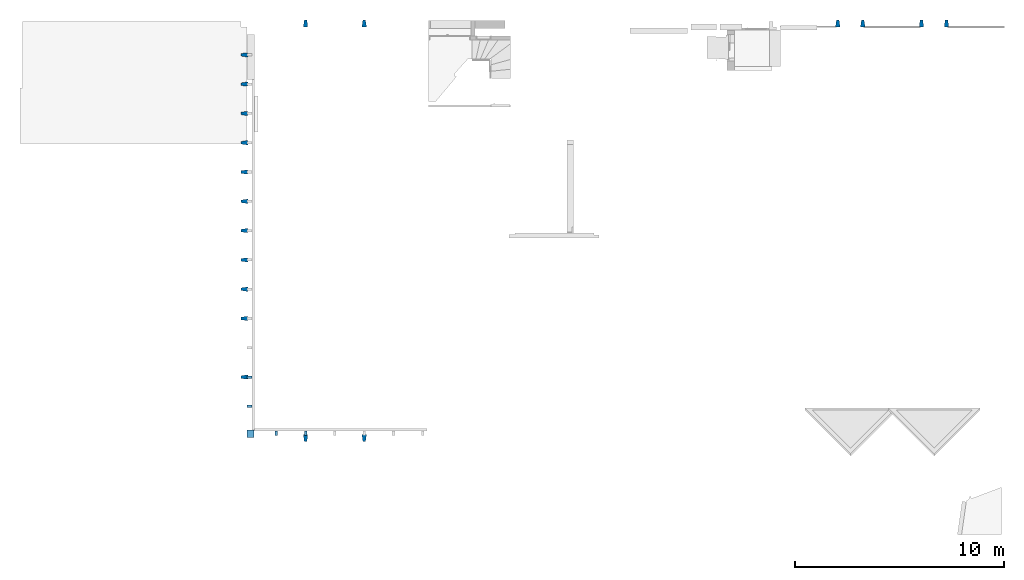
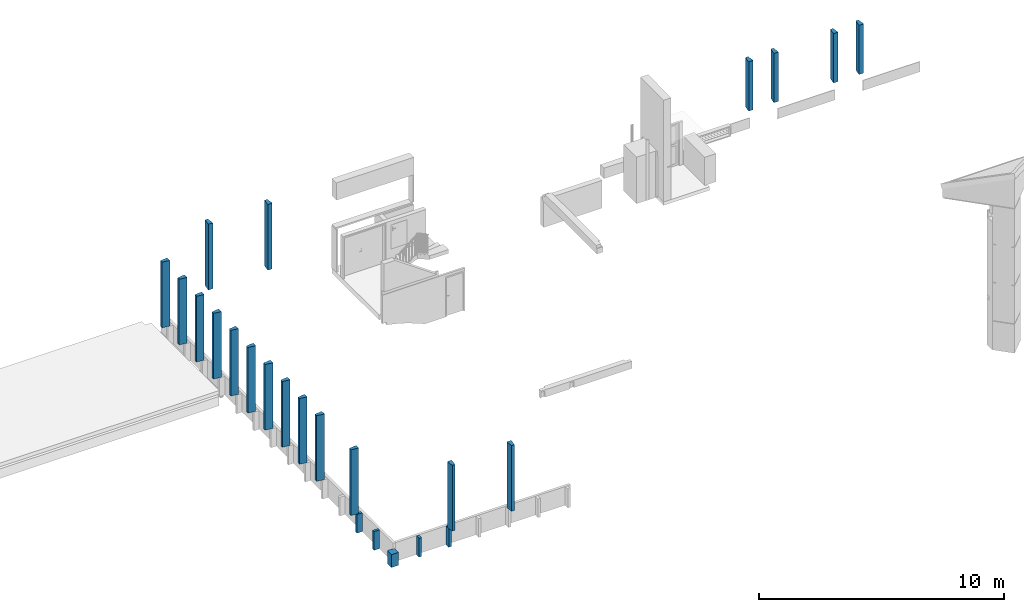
# One storey, part 1 of 13: 24 columns.
"""IFC4 building model written with IfcOpenShell, lengths in metres."""

from ifc_helpers import new_model, entity, si_unit, converted_unit, derived_unit, direction, frame, origin, place, context, subcontext, project, spatial, indexed_curve, outline, extrude, source, transform, mapped, material, material_list, type_object, type_shapes, element, save


model = new_model("IFC4")

# Units and contexts
model_context = context("Model", 3, precision=1e-05, world=origin(), true_north=direction((6.12303176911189e-17, 1.0)))
body_context = subcontext(model_context, "Body", "Model", "MODEL_VIEW")
ifc_project = project(units=[si_unit("LENGTHUNIT", "METRE"), si_unit("AREAUNIT", "SQUARE_METRE"), si_unit("VOLUMEUNIT", "CUBIC_METRE"), converted_unit("PLANEANGLEUNIT", "DEGREE", entity("IfcRatioMeasure", 0.0174532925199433), si_unit("PLANEANGLEUNIT", "RADIAN"), dimensions=[0, 0, 0, 0, 0, 0, 0]), si_unit("MASSUNIT", "GRAM", prefix="KILO"), derived_unit("MASSDENSITYUNIT", [(si_unit("MASSUNIT", "GRAM", prefix="KILO"), 1), (si_unit("LENGTHUNIT", "METRE"), -3)]), derived_unit("MOMENTOFINERTIAUNIT", [(si_unit("LENGTHUNIT", "METRE"), 4)]), si_unit("TIMEUNIT", "SECOND"), si_unit("FREQUENCYUNIT", "HERTZ"), si_unit("THERMODYNAMICTEMPERATUREUNIT", "DEGREE_CELSIUS"), derived_unit("THERMALTRANSMITTANCEUNIT", [(si_unit("MASSUNIT", "GRAM", prefix="KILO"), 1), (si_unit("THERMODYNAMICTEMPERATUREUNIT", "KELVIN"), -1), (si_unit("TIMEUNIT", "SECOND"), -3)]), derived_unit("VOLUMETRICFLOWRATEUNIT", [(si_unit("LENGTHUNIT", "METRE"), 3), (si_unit("TIMEUNIT", "SECOND"), -1)]), si_unit("ELECTRICCURRENTUNIT", "AMPERE"), si_unit("ELECTRICVOLTAGEUNIT", "VOLT"), si_unit("POWERUNIT", "WATT"), si_unit("FORCEUNIT", "NEWTON", prefix="KILO"), si_unit("ILLUMINANCEUNIT", "LUX"), si_unit("LUMINOUSFLUXUNIT", "LUMEN"), si_unit("LUMINOUSINTENSITYUNIT", "CANDELA"), derived_unit("USERDEFINED", [(si_unit("MASSUNIT", "GRAM", prefix="KILO"), -1), (si_unit("LENGTHUNIT", "METRE"), -2), (si_unit("TIMEUNIT", "SECOND"), 3), (si_unit("LUMINOUSFLUXUNIT", "LUMEN"), 1)]), derived_unit("LINEARVELOCITYUNIT", [(si_unit("LENGTHUNIT", "METRE"), 1), (si_unit("TIMEUNIT", "SECOND"), -1)]), si_unit("PRESSUREUNIT", "PASCAL"), derived_unit("USERDEFINED", [(si_unit("LENGTHUNIT", "METRE"), -2), (si_unit("MASSUNIT", "GRAM", prefix="KILO"), 1), (si_unit("TIMEUNIT", "SECOND"), -2)]), derived_unit("LINEARFORCEUNIT", [(si_unit("MASSUNIT", "GRAM", prefix="KILO"), 1), (si_unit("LENGTHUNIT", "METRE"), 1), (si_unit("TIMEUNIT", "SECOND"), -2), (si_unit("LENGTHUNIT", "METRE"), -1)]), derived_unit("PLANARFORCEUNIT", [(si_unit("MASSUNIT", "GRAM", prefix="KILO"), 1), (si_unit("LENGTHUNIT", "METRE"), 1), (si_unit("TIMEUNIT", "SECOND"), -2), (si_unit("LENGTHUNIT", "METRE"), -2)])], contexts=[model_context])

# Site, building, storey
site_placement = place(None, origin())
site = spatial("IfcSite", under=ifc_project, at=site_placement, Name="Default", CompositionType="ELEMENT")
building_placement = place(site_placement, origin())
building = spatial("IfcBuilding", under=site, at=building_placement, Name="HOTEL CONSULAIRE BOULOGNE SUR MER", CompositionType="ELEMENT")
storey_placement = place(building_placement, frame((0.0, 0.0, -1.40419978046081)))
storey = spatial("IfcBuildingStorey", under=building, at=storey_placement, Name="Demi-niveau", CompositionType="ELEMENT", Elevation=-1.40419978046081)

# Columns
ifc_material_1 = material(Name="Finition Peinture - Blanc satiné", Category="Peinture")
ifc_material_2 = material(Name="<Unnamed>")
ifc_material_list_1 = material_list([ifc_material_1, ifc_material_2])
column_type_1 = type_object("IfcColumnType", Name="Poteaux porteurs 1:Poteaux porteurs 1", PredefinedType="COLUMN", material=ifc_material_list_1)
shared_shape_1 = source(origin(), body_context, "Body", "SweptSolid", [
    extrude(outline(indexed_curve([(-0.140333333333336, -0.100000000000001), (-0.0593333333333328, -0.100000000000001), (0.199666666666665, -0.0611499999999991), (0.199666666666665, 0.0611499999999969), (-0.0593333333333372, 0.0999999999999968), (-0.140333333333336, 0.0999999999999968), (-0.140333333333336, -0.100000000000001)], self_intersect=False)), frame((-11.0414199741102, -29.6944004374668, -0.219999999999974), z_axis=(0.0, 0.0, 1.0), x_axis=(0.0, -1.0, 0.0)), (0.0, 0.0, 1.0), 3.2711269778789),
])
type_shapes(column_type_1, [shared_shape_1])
column_1_placement = place(storey_placement, frame((0.0, 0.0, 1.40419978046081)))
element("IfcColumn", 1, at=column_1_placement, inside=storey, type_object=column_type_1, material=ifc_material_1, Name="Poteaux porteurs 1:Poteaux porteurs 1", ObjectType="Poteaux porteurs 1:Poteaux porteurs 1", PredefinedType="COLUMN", context=body_context, shape_type="MappedRepresentation", body=[
    mapped(shared_shape_1, transform((0.0, 0.0, 0.0), scale=1.0)),
])
ifc_material_list_2 = material_list([ifc_material_1, ifc_material_2])
column_type_2 = type_object("IfcColumnType", Name="Poteaux porteurs 3:Poteaux porteurs 1", PredefinedType="COLUMN", material=ifc_material_list_2)
shared_shape_2 = source(origin(), body_context, "Body", "SweptSolid", [
    extrude(outline(indexed_curve([(-0.140333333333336, -0.100000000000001), (-0.0593333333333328, -0.100000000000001), (0.199666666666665, -0.0611499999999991), (0.199666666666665, 0.0611499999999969), (-0.0593333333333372, 0.0999999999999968), (-0.140333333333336, 0.0999999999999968), (-0.140333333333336, -0.100000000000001)], self_intersect=False)), frame((-11.0414199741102, -29.6944004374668, -0.219999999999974), z_axis=(0.0, 0.0, 1.0), x_axis=(0.0, -1.0, 0.0)), (0.0, 0.0, 1.0), 3.2711269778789),
])
type_shapes(column_type_2, [shared_shape_2])
column_2_placement = place(storey_placement, frame((2.8, 0.0, 1.40419978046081)))
element("IfcColumn", 2, at=column_2_placement, inside=storey, type_object=column_type_2, material=ifc_material_1, Name="Poteaux porteurs 3:Poteaux porteurs 1", ObjectType="Poteaux porteurs 3:Poteaux porteurs 1", PredefinedType="COLUMN", context=body_context, shape_type="MappedRepresentation", body=[
    mapped(shared_shape_2, transform((0.0, 0.0, 0.0), scale=1.0)),
])
ifc_material_list_3 = material_list([ifc_material_1, ifc_material_2])
column_type_3 = type_object("IfcColumnType", Name="Poteaux porteurs 4:Poteaux porteurs 1", PredefinedType="COLUMN", material=ifc_material_list_3)
shared_shape_3 = source(origin(), body_context, "Body", "SweptSolid", [
    extrude(outline(indexed_curve([(-0.140333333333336, -0.100000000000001), (-0.0593333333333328, -0.100000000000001), (0.199666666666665, -0.0611499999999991), (0.199666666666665, 0.0611499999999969), (-0.0593333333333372, 0.0999999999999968), (-0.140333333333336, 0.0999999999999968), (-0.140333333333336, -0.100000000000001)], self_intersect=False)), frame((-11.0414199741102, -29.6944004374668, -0.219999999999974), z_axis=(0.0, 0.0, 1.0), x_axis=(0.0, -1.0, 0.0)), (0.0, 0.0, 1.0), 3.27110477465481),
])
type_shapes(column_type_3, [shared_shape_3])
column_3_placement = place(storey_placement, frame((15.7659645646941, -33.6528698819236, 1.40419978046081), z_axis=(0.0, 0.0, 1.0), x_axis=(0.0, -1.0, 0.0)))
element("IfcColumn", 3, at=column_3_placement, inside=storey, type_object=column_type_3, material=ifc_material_1, Name="Poteaux porteurs 4:Poteaux porteurs 1", ObjectType="Poteaux porteurs 4:Poteaux porteurs 1", PredefinedType="COLUMN", context=body_context, shape_type="MappedRepresentation", body=[
    mapped(shared_shape_3, transform((0.0, 0.0, 0.0), scale=1.0)),
])
ifc_material_list_4 = material_list([ifc_material_2, ifc_material_1])
column_type_4 = type_object("IfcColumnType", Name="Poteaux porteurs 2:Poteaux porteurs 1", PredefinedType="COLUMN", material=ifc_material_list_4)
shared_shape_4 = source(origin(), body_context, "Body", "SweptSolid", [
    extrude(outline(indexed_curve([(-0.140333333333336, -0.100000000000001), (-0.0593333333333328, -0.100000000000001), (0.199666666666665, -0.0611499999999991), (0.199666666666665, 0.0611499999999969), (-0.0593333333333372, 0.0999999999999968), (-0.140333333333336, 0.0999999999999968), (-0.140333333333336, -0.100000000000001)], self_intersect=False)), frame((-11.0414199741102, -29.6944004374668, -0.219999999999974), z_axis=(0.0, 0.0, 1.0), x_axis=(0.0, -1.0, 0.0)), (0.0, 0.0, 1.0), 3.27110477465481),
])
type_shapes(column_type_4, [shared_shape_4])
column_4_placement = place(storey_placement, frame((15.7659645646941, -35.0528698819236, 1.40419978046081), z_axis=(0.0, 0.0, 1.0), x_axis=(0.0, -1.0, 0.0)))
element("IfcColumn", 4, at=column_4_placement, inside=storey, type_object=column_type_4, material=ifc_material_1, Name="Poteaux porteurs 2:Poteaux porteurs 1", ObjectType="Poteaux porteurs 2:Poteaux porteurs 1", PredefinedType="COLUMN", context=body_context, shape_type="MappedRepresentation", body=[
    mapped(shared_shape_4, transform((0.0, 0.0, 0.0), scale=1.0)),
])
ifc_material_list_5 = material_list([ifc_material_2, ifc_material_1])
column_type_5 = type_object("IfcColumnType", Name="Poteaux porteurs 6:Poteaux porteurs 1", PredefinedType="COLUMN", material=ifc_material_list_5)
shared_shape_5 = source(origin(), body_context, "Body", "SweptSolid", [
    extrude(outline(indexed_curve([(-0.140333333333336, -0.100000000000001), (-0.0593333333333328, -0.100000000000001), (0.199666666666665, -0.0611499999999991), (0.199666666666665, 0.0611499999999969), (-0.0593333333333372, 0.0999999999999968), (-0.140333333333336, 0.0999999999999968), (-0.140333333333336, -0.100000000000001)], self_intersect=False)), frame((-11.0414199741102, -29.6944004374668, -0.219999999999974), z_axis=(0.0, 0.0, 1.0), x_axis=(0.0, -1.0, 0.0)), (0.0, 0.0, 1.0), 3.27110477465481),
])
type_shapes(column_type_5, [shared_shape_5])
column_5_placement = place(storey_placement, frame((15.7659645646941, -37.8528698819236, 1.40419978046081), z_axis=(0.0, 0.0, 1.0), x_axis=(0.0, -1.0, 0.0)))
element("IfcColumn", 5, at=column_5_placement, inside=storey, type_object=column_type_5, material=ifc_material_1, Name="Poteaux porteurs 6:Poteaux porteurs 1", ObjectType="Poteaux porteurs 6:Poteaux porteurs 1", PredefinedType="COLUMN", context=body_context, shape_type="MappedRepresentation", body=[
    mapped(shared_shape_5, transform((0.0, 0.0, 0.0), scale=1.0)),
])
ifc_material_list_6 = material_list([ifc_material_1, ifc_material_2])
column_type_6 = type_object("IfcColumnType", Name="Poteaux porteurs 5:Poteaux porteurs 1", PredefinedType="COLUMN", material=ifc_material_list_6)
shared_shape_6 = source(origin(), body_context, "Body", "SweptSolid", [
    extrude(outline(indexed_curve([(-0.140333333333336, -0.100000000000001), (-0.0593333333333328, -0.100000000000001), (0.199666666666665, -0.0611499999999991), (0.199666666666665, 0.0611499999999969), (-0.0593333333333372, 0.0999999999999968), (-0.140333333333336, 0.0999999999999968), (-0.140333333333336, -0.100000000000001)], self_intersect=False)), frame((-11.0414199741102, -29.6944004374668, -0.219999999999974), z_axis=(0.0, 0.0, 1.0), x_axis=(0.0, -1.0, 0.0)), (0.0, 0.0, 1.0), 3.27110477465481),
])
type_shapes(column_type_6, [shared_shape_6])
column_6_placement = place(storey_placement, frame((15.7659645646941, -32.2528698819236, 1.40419978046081), z_axis=(0.0, 0.0, 1.0), x_axis=(0.0, -1.0, 0.0)))
element("IfcColumn", 6, at=column_6_placement, inside=storey, type_object=column_type_6, material=ifc_material_1, Name="Poteaux porteurs 5:Poteaux porteurs 1", ObjectType="Poteaux porteurs 5:Poteaux porteurs 1", PredefinedType="COLUMN", context=body_context, shape_type="MappedRepresentation", body=[
    mapped(shared_shape_6, transform((0.0, 0.0, 0.0), scale=1.0)),
])
ifc_material_list_7 = material_list([ifc_material_1, ifc_material_2])
column_type_7 = type_object("IfcColumnType", Name="Poteaux porteurs 7:Poteaux porteurs 1", PredefinedType="COLUMN", material=ifc_material_list_7)
shared_shape_7 = source(origin(), body_context, "Body", "SweptSolid", [
    extrude(outline(indexed_curve([(-0.140333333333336, -0.100000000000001), (-0.0593333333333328, -0.100000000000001), (0.199666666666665, -0.0611499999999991), (0.199666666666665, 0.0611499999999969), (-0.0593333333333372, 0.0999999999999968), (-0.140333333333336, 0.0999999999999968), (-0.140333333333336, -0.100000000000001)], self_intersect=False)), frame((-11.0414199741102, -29.6944004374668, -0.219999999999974), z_axis=(0.0, 0.0, 1.0), x_axis=(0.0, -1.0, 0.0)), (0.0, 0.0, 1.0), 3.27110477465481),
])
type_shapes(column_type_7, [shared_shape_7])
column_7_placement = place(storey_placement, frame((15.7659645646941, -30.8528698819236, 1.40419978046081), z_axis=(0.0, 0.0, 1.0), x_axis=(0.0, -1.0, 0.0)))
element("IfcColumn", 7, at=column_7_placement, inside=storey, type_object=column_type_7, material=ifc_material_1, Name="Poteaux porteurs 7:Poteaux porteurs 1", ObjectType="Poteaux porteurs 7:Poteaux porteurs 1", PredefinedType="COLUMN", context=body_context, shape_type="MappedRepresentation", body=[
    mapped(shared_shape_7, transform((0.0, 0.0, 0.0), scale=1.0)),
])
ifc_material_list_8 = material_list([ifc_material_1, ifc_material_2])
column_type_8 = type_object("IfcColumnType", Name="Poteaux porteurs 8:Poteaux porteurs 1", PredefinedType="COLUMN", material=ifc_material_list_8)
shared_shape_8 = source(origin(), body_context, "Body", "SweptSolid", [
    extrude(outline(indexed_curve([(-0.140333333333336, -0.100000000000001), (-0.0593333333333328, -0.100000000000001), (0.199666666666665, -0.0611499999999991), (0.199666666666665, 0.0611499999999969), (-0.0593333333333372, 0.0999999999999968), (-0.140333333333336, 0.0999999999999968), (-0.140333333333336, -0.100000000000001)], self_intersect=False)), frame((-11.0414199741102, -29.6944004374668, -0.219999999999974), z_axis=(0.0, 0.0, 1.0), x_axis=(0.0, -1.0, 0.0)), (0.0, 0.0, 1.0), 3.27110477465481),
])
type_shapes(column_type_8, [shared_shape_8])
column_8_placement = place(storey_placement, frame((15.7659645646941, -29.4528698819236, 1.40419978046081), z_axis=(0.0, 0.0, 1.0), x_axis=(0.0, -1.0, 0.0)))
element("IfcColumn", 8, at=column_8_placement, inside=storey, type_object=column_type_8, material=ifc_material_1, Name="Poteaux porteurs 8:Poteaux porteurs 1", ObjectType="Poteaux porteurs 8:Poteaux porteurs 1", PredefinedType="COLUMN", context=body_context, shape_type="MappedRepresentation", body=[
    mapped(shared_shape_8, transform((0.0, 0.0, 0.0), scale=1.0)),
])
ifc_material_list_9 = material_list([ifc_material_2, ifc_material_1])
column_type_9 = type_object("IfcColumnType", Name="Poteaux porteurs 9:Poteaux porteurs 1", PredefinedType="COLUMN", material=ifc_material_list_9)
shared_shape_9 = source(origin(), body_context, "Body", "SweptSolid", [
    extrude(outline(indexed_curve([(-0.140333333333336, -0.100000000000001), (-0.0593333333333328, -0.100000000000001), (0.199666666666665, -0.0611499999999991), (0.199666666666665, 0.0611499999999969), (-0.0593333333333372, 0.0999999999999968), (-0.140333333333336, 0.0999999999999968), (-0.140333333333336, -0.100000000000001)], self_intersect=False)), frame((-11.0414199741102, -29.6944004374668, -0.219999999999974), z_axis=(0.0, 0.0, 1.0), x_axis=(0.0, -1.0, 0.0)), (0.0, 0.0, 1.0), 3.27110477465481),
])
type_shapes(column_type_9, [shared_shape_9])
column_9_placement = place(storey_placement, frame((15.7659645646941, -28.0528698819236, 1.40419978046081), z_axis=(0.0, 0.0, 1.0), x_axis=(0.0, -1.0, 0.0)))
element("IfcColumn", 9, at=column_9_placement, inside=storey, type_object=column_type_9, material=ifc_material_1, Name="Poteaux porteurs 9:Poteaux porteurs 1", ObjectType="Poteaux porteurs 9:Poteaux porteurs 1", PredefinedType="COLUMN", context=body_context, shape_type="MappedRepresentation", body=[
    mapped(shared_shape_9, transform((0.0, 0.0, 0.0), scale=1.0)),
])
ifc_material_list_10 = material_list([ifc_material_1, ifc_material_2])
column_type_10 = type_object("IfcColumnType", Name="Poteaux porteurs 10:Poteaux porteurs 1", PredefinedType="COLUMN", material=ifc_material_list_10)
shared_shape_10 = source(origin(), body_context, "Body", "SweptSolid", [
    extrude(outline(indexed_curve([(-0.140333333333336, -0.100000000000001), (-0.0593333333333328, -0.100000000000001), (0.199666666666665, -0.0611499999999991), (0.199666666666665, 0.0611499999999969), (-0.0593333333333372, 0.0999999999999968), (-0.140333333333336, 0.0999999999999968), (-0.140333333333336, -0.100000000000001)], self_intersect=False)), frame((-11.0414199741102, -29.6944004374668, -0.219999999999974), z_axis=(0.0, 0.0, 1.0), x_axis=(0.0, -1.0, 0.0)), (0.0, 0.0, 1.0), 3.27110477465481),
])
type_shapes(column_type_10, [shared_shape_10])
column_10_placement = place(storey_placement, frame((15.7659645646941, -26.6528698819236, 1.40419978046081), z_axis=(0.0, 0.0, 1.0), x_axis=(0.0, -1.0, 0.0)))
element("IfcColumn", 10, at=column_10_placement, inside=storey, type_object=column_type_10, material=ifc_material_1, Name="Poteaux porteurs 10:Poteaux porteurs 1", ObjectType="Poteaux porteurs 10:Poteaux porteurs 1", PredefinedType="COLUMN", context=body_context, shape_type="MappedRepresentation", body=[
    mapped(shared_shape_10, transform((0.0, 0.0, 0.0), scale=1.0)),
])
ifc_material_list_11 = material_list([ifc_material_2, ifc_material_1])
column_type_11 = type_object("IfcColumnType", Name="Poteaux porteurs 11:Poteaux porteurs 1", PredefinedType="COLUMN", material=ifc_material_list_11)
shared_shape_11 = source(origin(), body_context, "Body", "SweptSolid", [
    extrude(outline(indexed_curve([(-0.140333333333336, -0.100000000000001), (-0.0593333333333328, -0.100000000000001), (0.199666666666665, -0.0611499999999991), (0.199666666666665, 0.0611499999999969), (-0.0593333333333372, 0.0999999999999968), (-0.140333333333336, 0.0999999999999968), (-0.140333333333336, -0.100000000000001)], self_intersect=False)), frame((-11.0414199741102, -29.6944004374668, -0.219999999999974), z_axis=(0.0, 0.0, 1.0), x_axis=(0.0, -1.0, 0.0)), (0.0, 0.0, 1.0), 3.27110477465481),
])
type_shapes(column_type_11, [shared_shape_11])
column_11_placement = place(storey_placement, frame((15.7659645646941, -25.2528698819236, 1.40419978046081), z_axis=(0.0, 0.0, 1.0), x_axis=(0.0, -1.0, 0.0)))
element("IfcColumn", 11, at=column_11_placement, inside=storey, type_object=column_type_11, material=ifc_material_1, Name="Poteaux porteurs 11:Poteaux porteurs 1", ObjectType="Poteaux porteurs 11:Poteaux porteurs 1", PredefinedType="COLUMN", context=body_context, shape_type="MappedRepresentation", body=[
    mapped(shared_shape_11, transform((0.0, 0.0, 0.0), scale=1.0)),
])
ifc_material_list_12 = material_list([ifc_material_1, ifc_material_2])
column_type_12 = type_object("IfcColumnType", Name="Poteaux porteurs 12:Poteaux porteurs 1", PredefinedType="COLUMN", material=ifc_material_list_12)
shared_shape_12 = source(origin(), body_context, "Body", "SweptSolid", [
    extrude(outline(indexed_curve([(-0.140333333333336, -0.100000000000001), (-0.0593333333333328, -0.100000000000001), (0.199666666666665, -0.0611499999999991), (0.199666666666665, 0.0611499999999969), (-0.0593333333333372, 0.0999999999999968), (-0.140333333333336, 0.0999999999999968), (-0.140333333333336, -0.100000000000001)], self_intersect=False)), frame((-11.0414199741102, -29.6944004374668, -0.219999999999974), z_axis=(0.0, 0.0, 1.0), x_axis=(0.0, -1.0, 0.0)), (0.0, 0.0, 1.0), 3.27110477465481),
])
type_shapes(column_type_12, [shared_shape_12])
column_12_placement = place(storey_placement, frame((15.7659645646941, -23.8528698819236, 1.40419978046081), z_axis=(0.0, 0.0, 1.0), x_axis=(0.0, -1.0, 0.0)))
element("IfcColumn", 12, at=column_12_placement, inside=storey, type_object=column_type_12, material=ifc_material_1, Name="Poteaux porteurs 12:Poteaux porteurs 1", ObjectType="Poteaux porteurs 12:Poteaux porteurs 1", PredefinedType="COLUMN", context=body_context, shape_type="MappedRepresentation", body=[
    mapped(shared_shape_12, transform((0.0, 0.0, 0.0), scale=1.0)),
])
ifc_material_list_13 = material_list([ifc_material_2, ifc_material_1])
column_type_13 = type_object("IfcColumnType", Name="Poteaux porteurs 13:Poteaux porteurs 1", PredefinedType="COLUMN", material=ifc_material_list_13)
shared_shape_13 = source(origin(), body_context, "Body", "SweptSolid", [
    extrude(outline(indexed_curve([(-0.140333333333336, -0.100000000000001), (-0.0593333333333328, -0.100000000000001), (0.199666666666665, -0.0611499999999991), (0.199666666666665, 0.0611499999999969), (-0.0593333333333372, 0.0999999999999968), (-0.140333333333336, 0.0999999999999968), (-0.140333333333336, -0.100000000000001)], self_intersect=False)), frame((-11.0414199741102, -29.6944004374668, -0.219999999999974), z_axis=(0.0, 0.0, 1.0), x_axis=(0.0, -1.0, 0.0)), (0.0, 0.0, 1.0), 3.27110477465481),
])
type_shapes(column_type_13, [shared_shape_13])
column_13_placement = place(storey_placement, frame((15.7659645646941, -22.4528698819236, 1.40419978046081), z_axis=(0.0, 0.0, 1.0), x_axis=(0.0, -1.0, 0.0)))
element("IfcColumn", 13, at=column_13_placement, inside=storey, type_object=column_type_13, material=ifc_material_1, Name="Poteaux porteurs 13:Poteaux porteurs 1", ObjectType="Poteaux porteurs 13:Poteaux porteurs 1", PredefinedType="COLUMN", context=body_context, shape_type="MappedRepresentation", body=[
    mapped(shared_shape_13, transform((0.0, 0.0, 0.0), scale=1.0)),
])
ifc_material_list_14 = material_list([ifc_material_1, ifc_material_2])
column_type_14 = type_object("IfcColumnType", Name="Poteaux porteurs 14:Poteaux porteurs 1", PredefinedType="COLUMN", material=ifc_material_list_14)
shared_shape_14 = source(origin(), body_context, "Body", "SweptSolid", [
    extrude(outline(indexed_curve([(-0.140333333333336, -0.100000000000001), (-0.0593333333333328, -0.100000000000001), (0.199666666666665, -0.0611499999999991), (0.199666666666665, 0.0611499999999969), (-0.0593333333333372, 0.0999999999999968), (-0.140333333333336, 0.0999999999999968), (-0.140333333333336, -0.100000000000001)], self_intersect=False)), frame((-11.0414199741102, -29.6944004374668, -0.219999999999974), z_axis=(0.0, 0.0, 1.0), x_axis=(0.0, -1.0, 0.0)), (0.0, 0.0, 1.0), 3.27110477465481),
])
type_shapes(column_type_14, [shared_shape_14])
column_14_placement = place(storey_placement, frame((-22.0828399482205, -39.6397356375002, 1.40419978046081), z_axis=(0.0, 0.0, 1.0), x_axis=(-1.0, 0.0, 0.0)))
element("IfcColumn", 14, at=column_14_placement, inside=storey, type_object=column_type_14, material=ifc_material_1, Name="Poteaux porteurs 14:Poteaux porteurs 1", ObjectType="Poteaux porteurs 14:Poteaux porteurs 1", PredefinedType="COLUMN", context=body_context, shape_type="MappedRepresentation", body=[
    mapped(shared_shape_14, transform((0.0, 0.0, 0.0), scale=1.0)),
])
ifc_material_list_15 = material_list([ifc_material_1, ifc_material_2])
column_type_15 = type_object("IfcColumnType", Name="Poteaux porteurs 15:Poteaux porteurs 1", PredefinedType="COLUMN", material=ifc_material_list_15)
shared_shape_15 = source(origin(), body_context, "Body", "SweptSolid", [
    extrude(outline(indexed_curve([(-0.140333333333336, -0.100000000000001), (-0.0593333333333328, -0.100000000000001), (0.199666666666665, -0.0611499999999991), (0.199666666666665, 0.0611499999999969), (-0.0593333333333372, 0.0999999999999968), (-0.140333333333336, 0.0999999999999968), (-0.140333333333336, -0.100000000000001)], self_intersect=False)), frame((-11.0414199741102, -29.6944004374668, -0.219999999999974), z_axis=(0.0, 0.0, 1.0), x_axis=(0.0, -1.0, 0.0)), (0.0, 0.0, 1.0), 3.27110477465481),
])
type_shapes(column_type_15, [shared_shape_15])
column_15_placement = place(storey_placement, frame((-19.2828399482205, -39.6397356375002, 1.40419978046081), z_axis=(0.0, 0.0, 1.0), x_axis=(-1.0, 0.0, 0.0)))
element("IfcColumn", 15, at=column_15_placement, inside=storey, type_object=column_type_15, material=ifc_material_1, Name="Poteaux porteurs 15:Poteaux porteurs 1", ObjectType="Poteaux porteurs 15:Poteaux porteurs 1", PredefinedType="COLUMN", context=body_context, shape_type="MappedRepresentation", body=[
    mapped(shared_shape_15, transform((0.0, 0.0, 0.0), scale=1.0)),
])
ifc_material_list_16 = material_list([ifc_material_1, ifc_material_2])
column_type_16 = type_object("IfcColumnType", Name="Poteaux porteurs 16:Poteaux porteurs 1", PredefinedType="COLUMN", material=ifc_material_list_16)
shared_shape_16 = source(origin(), body_context, "Body", "SweptSolid", [
    extrude(outline(indexed_curve([(-0.140333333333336, -0.100000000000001), (-0.0593333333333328, -0.100000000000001), (0.199666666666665, -0.0611499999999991), (0.199666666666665, 0.0611499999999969), (-0.0593333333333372, 0.0999999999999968), (-0.140333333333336, 0.0999999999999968), (-0.140333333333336, -0.100000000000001)], self_intersect=False)), frame((-11.0414199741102, -29.6944004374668, -0.219999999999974), z_axis=(0.0, 0.0, 1.0), x_axis=(0.0, -1.0, 0.0)), (0.0, 0.0, 1.0), 2.4515269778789),
])
type_shapes(column_type_16, [shared_shape_16])
column_16_placement = place(storey_placement, frame((8.54816005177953, -39.6397356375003, 1.40419978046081), z_axis=(0.0, 0.0, 1.0), x_axis=(-1.0, 0.0, 0.0)))
element("IfcColumn", 16, at=column_16_placement, inside=storey, type_object=column_type_16, material=ifc_material_1, Name="Poteaux porteurs 16:Poteaux porteurs 1", ObjectType="Poteaux porteurs 16:Poteaux porteurs 1", PredefinedType="COLUMN", context=body_context, shape_type="MappedRepresentation", body=[
    mapped(shared_shape_16, transform((0.0, 0.0, 0.0), scale=1.0)),
])
ifc_material_list_17 = material_list([ifc_material_2, ifc_material_1])
column_type_17 = type_object("IfcColumnType", Name="Poteaux porteurs 17:Poteaux porteurs 1", PredefinedType="COLUMN", material=ifc_material_list_17)
shared_shape_17 = source(origin(), body_context, "Body", "SweptSolid", [
    extrude(outline(indexed_curve([(-0.140333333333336, -0.100000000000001), (-0.0593333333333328, -0.100000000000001), (0.199666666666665, -0.0611499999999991), (0.199666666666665, 0.0611499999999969), (-0.0593333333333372, 0.0999999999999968), (-0.140333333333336, 0.0999999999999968), (-0.140333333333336, -0.100000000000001)], self_intersect=False)), frame((-11.0414199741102, -29.6944004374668, -0.219999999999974), z_axis=(0.0, 0.0, 1.0), x_axis=(0.0, -1.0, 0.0)), (0.0, 0.0, 1.0), 2.4515269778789),
])
type_shapes(column_type_17, [shared_shape_17])
column_17_placement = place(storey_placement, frame((7.34963451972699, -39.6397356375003, 1.40419978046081), z_axis=(0.0, 0.0, 1.0), x_axis=(-1.0, 0.0, 0.0)))
element("IfcColumn", 17, at=column_17_placement, inside=storey, type_object=column_type_17, material=ifc_material_1, Name="Poteaux porteurs 17:Poteaux porteurs 1", ObjectType="Poteaux porteurs 17:Poteaux porteurs 1", PredefinedType="COLUMN", context=body_context, shape_type="MappedRepresentation", body=[
    mapped(shared_shape_17, transform((0.0, 0.0, 0.0), scale=1.0)),
])
ifc_material_list_18 = material_list([ifc_material_2, ifc_material_1])
column_type_18 = type_object("IfcColumnType", Name="Poteaux porteurs 18:Poteaux porteurs 1", PredefinedType="COLUMN", material=ifc_material_list_18)
shared_shape_18 = source(origin(), body_context, "Body", "SweptSolid", [
    extrude(outline(indexed_curve([(-0.140333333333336, -0.100000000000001), (-0.0593333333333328, -0.100000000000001), (0.199666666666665, -0.0611499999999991), (0.199666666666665, 0.0611499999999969), (-0.0593333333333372, 0.0999999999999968), (-0.140333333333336, 0.0999999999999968), (-0.140333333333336, -0.100000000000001)], self_intersect=False)), frame((-11.0414199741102, -29.6944004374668, -0.219999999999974), z_axis=(0.0, 0.0, 1.0), x_axis=(0.0, -1.0, 0.0)), (0.0, 0.0, 1.0), 2.4515269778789),
])
type_shapes(column_type_18, [shared_shape_18])
column_18_placement = place(storey_placement, frame((4.5461252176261, -39.6397356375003, 1.40419978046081), z_axis=(0.0, 0.0, 1.0), x_axis=(-1.0, 0.0, 0.0)))
element("IfcColumn", 18, at=column_18_placement, inside=storey, type_object=column_type_18, material=ifc_material_1, Name="Poteaux porteurs 18:Poteaux porteurs 1", ObjectType="Poteaux porteurs 18:Poteaux porteurs 1", PredefinedType="COLUMN", context=body_context, shape_type="MappedRepresentation", body=[
    mapped(shared_shape_18, transform((0.0, 0.0, 0.0), scale=1.0)),
])
ifc_material_list_19 = material_list([ifc_material_2, ifc_material_1])
column_type_19 = type_object("IfcColumnType", Name="Poteaux porteurs 19:Poteaux porteurs 1", PredefinedType="COLUMN", material=ifc_material_list_19)
shared_shape_19 = source(origin(), body_context, "Body", "SweptSolid", [
    extrude(outline(indexed_curve([(-0.140333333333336, -0.100000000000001), (-0.0593333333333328, -0.100000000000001), (0.199666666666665, -0.0611499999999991), (0.199666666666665, 0.0611499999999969), (-0.0593333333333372, 0.0999999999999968), (-0.140333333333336, 0.0999999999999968), (-0.140333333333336, -0.100000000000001)], self_intersect=False)), frame((-11.0414199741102, -29.6944004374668, -0.219999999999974), z_axis=(0.0, 0.0, 1.0), x_axis=(0.0, -1.0, 0.0)), (0.0, 0.0, 1.0), 2.4515269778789),
])
type_shapes(column_type_19, [shared_shape_19])
column_19_placement = place(storey_placement, frame((3.35161668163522, -39.6397356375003, 1.40419978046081), z_axis=(0.0, 0.0, 1.0), x_axis=(-1.0, 0.0, 0.0)))
element("IfcColumn", 19, at=column_19_placement, inside=storey, type_object=column_type_19, material=ifc_material_1, Name="Poteaux porteurs 19:Poteaux porteurs 1", ObjectType="Poteaux porteurs 19:Poteaux porteurs 1", PredefinedType="COLUMN", context=body_context, shape_type="MappedRepresentation", body=[
    mapped(shared_shape_19, transform((0.0, 0.0, 0.0), scale=1.0)),
])
ifc_material_3 = material(Name="Maçonnerie - Béton coulé sur place", Category="Béton")
ifc_material_list_20 = material_list([ifc_material_3, ifc_material_1])
column_type_20 = type_object("IfcColumnType", Name="Poteau béton - Rectangulaire:340x340", PredefinedType="COLUMN", material=ifc_material_list_20)
shared_shape_20 = source(origin(), body_context, "Body", "SweptSolid", [
    extrude(outline(indexed_curve([(-0.17, -0.17), (0.17, -0.17), (0.17, 0.17), (-0.17, 0.17), (-0.17, -0.17)], self_intersect=False)), frame((-13.6753496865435, -29.5180671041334, -1.19919978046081), z_axis=(0.0, 0.0, 1.0), x_axis=(0.0, -1.0, 0.0)), (0.0, 0.0, 1.0), 0.639199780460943),
])
type_shapes(column_type_20, [shared_shape_20])
column_20_placement = place(storey_placement, frame((0.0, 0.0, 1.40419978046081)))
element("IfcColumn", 20, at=column_20_placement, inside=storey, type_object=column_type_20, material=ifc_material_1, Name="Poteau béton - Rectangulaire:340x340", ObjectType="Poteau béton - Rectangulaire:340x340", PredefinedType="COLUMN", context=body_context, shape_type="MappedRepresentation", body=[
    mapped(shared_shape_20, transform((0.0, 0.0, 0.0), scale=1.0)),
])
ifc_material_list_21 = material_list([ifc_material_1, ifc_material_2])
column_type_21 = type_object("IfcColumnType", Name="Poteaux porteurs 94:Poteaux porteurs 1", PredefinedType="COLUMN", material=ifc_material_list_21)
shared_shape_21 = source(origin(), body_context, "Body", "SweptSolid", [
    extrude(outline(indexed_curve([(-0.0611500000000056, -0.124999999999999), (0.0611500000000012, -0.124999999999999), (0.06115000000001, 0.125000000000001), (-0.0611500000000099, 0.124999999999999), (-0.0611500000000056, -0.124999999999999)], self_intersect=False)), frame((-13.7203496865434, -26.8114499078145, -1.19958813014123), z_axis=(0.0, 0.0, 1.0), x_axis=(0.0, -1.0, 0.0)), (0.0, 0.0, 1.0), 0.929588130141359),
])
type_shapes(column_type_21, [shared_shape_21])
column_21_placement = place(storey_placement, frame((0.0, 0.0, 1.40419978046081)))
element("IfcColumn", 21, at=column_21_placement, inside=storey, type_object=column_type_21, material=ifc_material_1, Name="Poteaux porteurs 94:Poteaux porteurs 1", ObjectType="Poteaux porteurs 94:Poteaux porteurs 1", PredefinedType="COLUMN", context=body_context, shape_type="MappedRepresentation", body=[
    mapped(shared_shape_21, transform((0.0, 0.0, 0.0), scale=1.0)),
])
ifc_material_list_22 = material_list([ifc_material_2, ifc_material_1])
column_type_22 = type_object("IfcColumnType", Name="Poteaux porteurs 92:Poteaux porteurs 1", PredefinedType="COLUMN", material=ifc_material_list_22)
shared_shape_22 = source(origin(), body_context, "Body", "SweptSolid", [
    extrude(outline(indexed_curve([(-0.0611500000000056, -0.124999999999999), (0.0611500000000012, -0.124999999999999), (0.06115000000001, 0.125000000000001), (-0.0611500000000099, 0.124999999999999), (-0.0611500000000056, -0.124999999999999)], self_intersect=False)), frame((-13.7203496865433, -28.2114499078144, -1.19958813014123), z_axis=(0.0, 0.0, 1.0), x_axis=(0.0, -1.0, 0.0)), (0.0, 0.0, 1.0), 0.929588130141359),
])
type_shapes(column_type_22, [shared_shape_22])
column_22_placement = place(storey_placement, frame((0.0, 0.0, 1.40419978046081)))
element("IfcColumn", 22, at=column_22_placement, inside=storey, type_object=column_type_22, material=ifc_material_1, Name="Poteaux porteurs 92:Poteaux porteurs 1", ObjectType="Poteaux porteurs 92:Poteaux porteurs 1", PredefinedType="COLUMN", context=body_context, shape_type="MappedRepresentation", body=[
    mapped(shared_shape_22, transform((0.0, 0.0, 0.0), scale=1.0)),
])
ifc_material_list_23 = material_list([ifc_material_2, ifc_material_1])
column_type_23 = type_object("IfcColumnType", Name="Poteaux porteurs 105:Poteaux porteurs 1", PredefinedType="COLUMN", material=ifc_material_list_23)
shared_shape_23 = source(origin(), body_context, "Body", "SweptSolid", [
    extrude(outline(indexed_curve([(-0.112611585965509, -0.0611500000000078), (0.112611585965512, -0.0611500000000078), (0.112611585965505, 0.0611500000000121), (-0.112611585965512, 0.0611499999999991), (-0.112611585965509, -0.0611500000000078)], self_intersect=False)), frame((-11.0414199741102, -29.5006786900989, -1.19958813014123), z_axis=(0.0, 0.0, 1.0), x_axis=(0.0, -1.0, 0.0)), (0.0, 0.0, 1.0), 0.929588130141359),
])
type_shapes(column_type_23, [shared_shape_23])
column_23_placement = place(storey_placement, frame((0.0, 0.0, 1.40419978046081)))
element("IfcColumn", 23, at=column_23_placement, inside=storey, type_object=column_type_23, material=ifc_material_1, Name="Poteaux porteurs 105:Poteaux porteurs 1", ObjectType="Poteaux porteurs 105:Poteaux porteurs 1", PredefinedType="COLUMN", context=body_context, shape_type="MappedRepresentation", body=[
    mapped(shared_shape_23, transform((0.0, 0.0, 0.0), scale=1.0)),
])
ifc_material_list_24 = material_list([ifc_material_2, ifc_material_1])
column_type_24 = type_object("IfcColumnType", Name="Poteaux porteurs 106:Poteaux porteurs 1", PredefinedType="COLUMN", material=ifc_material_list_24)
shared_shape_24 = source(origin(), body_context, "Body", "SweptSolid", [
    extrude(outline(indexed_curve([(-0.112611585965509, -0.0611500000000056), (0.112611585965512, -0.0611500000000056), (0.112611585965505, 0.0611500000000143), (-0.112611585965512, 0.0611500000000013), (-0.112611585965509, -0.0611500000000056)], self_intersect=False)), frame((-12.4414199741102, -29.5006786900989, -1.19958813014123), z_axis=(0.0, 0.0, 1.0), x_axis=(0.0, -1.0, 0.0)), (0.0, 0.0, 1.0), 0.929588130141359),
])
type_shapes(column_type_24, [shared_shape_24])
column_24_placement = place(storey_placement, frame((0.0, 0.0, 1.40419978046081)))
element("IfcColumn", 24, at=column_24_placement, inside=storey, type_object=column_type_24, material=ifc_material_1, Name="Poteaux porteurs 106:Poteaux porteurs 1", ObjectType="Poteaux porteurs 106:Poteaux porteurs 1", PredefinedType="COLUMN", context=body_context, shape_type="MappedRepresentation", body=[
    mapped(shared_shape_24, transform((0.0, 0.0, 0.0), scale=1.0)),
])

save(model, "model.ifc")
